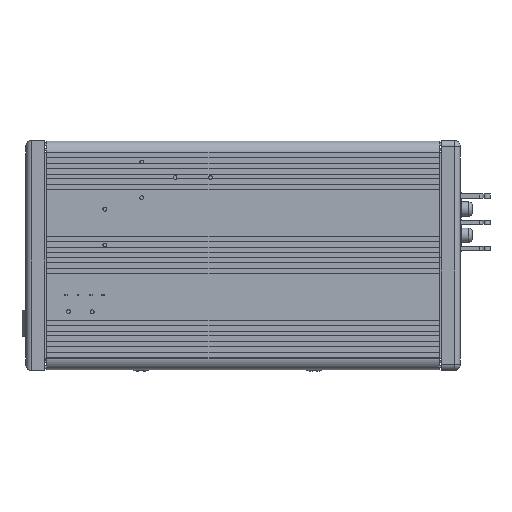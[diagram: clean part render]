
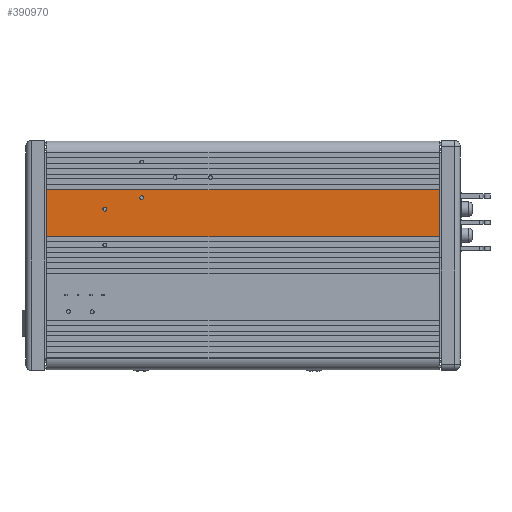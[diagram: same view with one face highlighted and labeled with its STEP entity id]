
A CAD part, front view. The second image highlights one B-rep face of the part: STEP entity #390970.
In plain terms, the highlighted planar face has unit normal (0, -1, 0) as drawn and (1, 0, 0) by its records, which use the part's own axes.
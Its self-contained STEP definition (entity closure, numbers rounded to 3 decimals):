
#379960=CARTESIAN_POINT('',(38.193,69.48,165.));
#379970=VERTEX_POINT('',#379960);
#380000=CARTESIAN_POINT('',(38.193,69.48,165.));
#380010=DIRECTION('',(0.,-1.,0.));
#380020=VECTOR('',#380010,1.);
#380030=LINE('',#380000,#380020);
#380040=CARTESIAN_POINT('',(38.193,49.73,165.));
#380050=VERTEX_POINT('',#380040);
#380060=EDGE_CURVE('',#379970,#380050,#380030,.T.);
#390550=CARTESIAN_POINT('',(38.193,49.73,0.));
#390560=DIRECTION('',(0.,0.,1.));
#390570=VECTOR('',#390560,1.);
#390580=LINE('',#390550,#390570);
#390590=CARTESIAN_POINT('',(38.193,49.73,0.));
#390600=VERTEX_POINT('',#390590);
#390610=EDGE_CURVE('',#390600,#380050,#390580,.T.);
#390740=CARTESIAN_POINT('',(38.193,67.48,-0.));
#390750=DIRECTION('',(1.,-0.,-0.));
#390760=DIRECTION('',(-0.,0.,-1.));
#390770=AXIS2_PLACEMENT_3D('',#390740,#390750,#390760);
#390780=PLANE('',#390770);
#390790=CARTESIAN_POINT('',(38.193,69.48,0.));
#390800=DIRECTION('',(0.,0.,1.));
#390810=VECTOR('',#390800,1.);
#390820=LINE('',#390790,#390810);
#390830=CARTESIAN_POINT('',(38.193,69.48,0.));
#390840=VERTEX_POINT('',#390830);
#390850=EDGE_CURVE('',#390840,#379970,#390820,.T.);
#390860=ORIENTED_EDGE('',*,*,#390850,.T.);
#390870=CARTESIAN_POINT('',(38.193,49.73,0.));
#390880=DIRECTION('',(0.,1.,0.));
#390890=VECTOR('',#390880,1.);
#390900=LINE('',#390870,#390890);
#390910=EDGE_CURVE('',#390600,#390840,#390900,.T.);
#390920=ORIENTED_EDGE('',*,*,#390910,.T.);
#390930=ORIENTED_EDGE('',*,*,#390610,.F.);
#390940=ORIENTED_EDGE('',*,*,#380060,.T.);
#390950=EDGE_LOOP('',(#390940,#390930,#390920,#390860));
#390960=FACE_OUTER_BOUND('',#390950,.T.);
#390970=ADVANCED_FACE('',(#390960),#390780,.T.);
